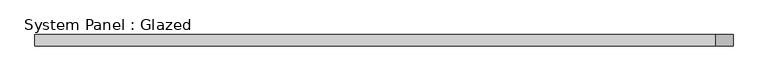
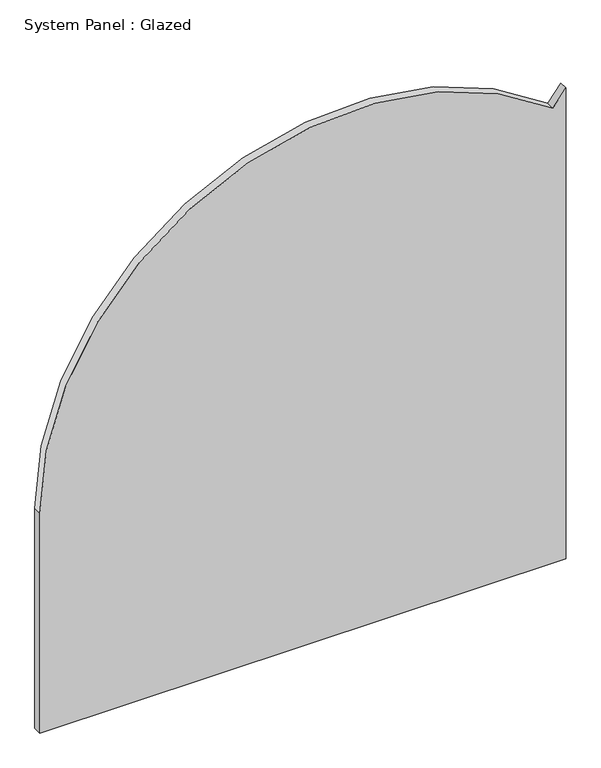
"""IFC4 building model written with IfcOpenShell, lengths in millimetres: plate geometry, System Panel : Glazed."""

import ifcopenshell
import ifcopenshell.guid

model = None  # the IFC model being written
_history = None  # IfcOwnerHistory: only IFC2X3 demands one
_inside = {}  # id of a spatial element -> (the spatial element, [elements in it])
_under = {}  # id of a project, library or spatial element -> (it, [spatial elements below it])
_declared = {}  # id of a project -> (the project, [libraries it declares])
_typed = {}  # id of a type object -> (the type object, [elements of that type])
_made_of = {}  # id of a material, layer set ... -> (it, [elements and type objects made of it])


def new_model(schema):
    """Start an empty IFC model of exactly this schema.

    Asked for "IFC4X3", IfcOpenShell would pick the latest addendum, in which some entities
    have other attributes; the version numbers below select the first issue.
    IFC2X3 requires an IfcOwnerHistory on every rooted entity: one is made here for all.
    """
    global model, _history
    if schema == "IFC4X3":
        model = ifcopenshell.file(schema_version=(4, 3, 0, 0))
    else:
        model = ifcopenshell.file(schema=schema)
    _inside.clear()
    _under.clear()
    _declared.clear()
    _typed.clear()
    _made_of.clear()
    _history = None
    if model.schema == "IFC2X3":
        org = make("IfcOrganization", Name="unknown")
        user = make(
            "IfcPersonAndOrganization",
            ThePerson=make("IfcPerson", FamilyName="unknown"),
            TheOrganization=org,
        )
        app = make(
            "IfcApplication",
            ApplicationDeveloper=org,
            Version="unknown",
            ApplicationFullName="unknown",
            ApplicationIdentifier="unknown",
        )
        _history = make(
            "IfcOwnerHistory",
            OwningUser=user,
            OwningApplication=app,
            ChangeAction="ADDED",
            CreationDate=0,
        )
    return model


def make(cls, **values):
    """One entity of the class cls with the attributes given. An attribute that is None is left unset."""
    return model.create_entity(
        cls, **{name: value for name, value in values.items() if value is not None}
    )


def rooted(cls, **values):
    """An entity with a GlobalId (a new one), such as an element, a storey or a relation."""
    return make(cls, GlobalId=ifcopenshell.guid.new(), OwnerHistory=_history, **values)


def si_unit(unit_type, name, prefix=None):
    """IfcSIUnit, for example si_unit("LENGTHUNIT", "METRE", prefix="MILLI")."""
    return make("IfcSIUnit", UnitType=unit_type, Prefix=prefix, Name=name)


def assignment(units):
    """IfcUnitAssignment: the units of a project."""
    return None if units is None else make("IfcUnitAssignment", Units=units)


def point(xyz):
    """IfcCartesianPoint."""
    return None if xyz is None else make("IfcCartesianPoint", Coordinates=xyz)


def direction(xyz):
    """IfcDirection."""
    return None if xyz is None else make("IfcDirection", DirectionRatios=xyz)


def frame(location, z_axis=None, x_axis=None):
    """IfcAxis2Placement3D, a coordinate frame: its origin and axes. An axis left out is left unset."""
    return make(
        "IfcAxis2Placement3D",
        Location=point(location),
        Axis=direction(z_axis),
        RefDirection=direction(x_axis),
    )


def frame_2d(location, x_axis=None):
    """IfcAxis2Placement2D, a coordinate frame in the plane: its origin and x axis."""
    return make(
        "IfcAxis2Placement2D", Location=point(location), RefDirection=direction(x_axis)
    )


def origin():
    """The frame at (0, 0, 0) with its axes left unset."""
    return frame((0.0, 0.0, 0.0))


def place(relative_to, where):
    """IfcLocalPlacement: puts the frame where relative to a parent placement (None: the world)."""
    return make(
        "IfcLocalPlacement", PlacementRelTo=relative_to, RelativePlacement=where
    )


def context(
    kind, dimensions, precision=None, world=None, true_north=None, identifier=None
):
    """IfcGeometricRepresentationContext, for example the 3D "Model" context."""
    return make(
        "IfcGeometricRepresentationContext",
        ContextIdentifier=identifier,
        ContextType=kind,
        CoordinateSpaceDimension=dimensions,
        Precision=precision,
        WorldCoordinateSystem=world,
        TrueNorth=true_north,
    )


def project(units=None, contexts=None):
    """IfcProject with its units and contexts."""
    return rooted(
        "IfcProject",
        Name="project",
        RepresentationContexts=contexts,
        UnitsInContext=assignment(units),
    )


def spatial(cls, under=None, at=None, **own):
    """A site, building, storey or space (cls), placed at a placement, below another one or the project."""
    s = rooted(cls, ObjectPlacement=at, **own)
    if under is not None:
        _under.setdefault(under.id(), (under, []))[1].append(s)
    return s


def polyline(points):
    """IfcPolyline through the points."""
    return make("IfcPolyline", Points=[point(p) for p in points])


def circle_curve(where, radius):
    """IfcCircle in the frame where."""
    return make("IfcCircle", Position=where, Radius=radius)


def trimmed(basis, trim1, trim2, sense, master):
    """IfcTrimmedCurve: the piece of a basis curve between two trims."""
    return make(
        "IfcTrimmedCurve",
        BasisCurve=basis,
        Trim1=trim1,
        Trim2=trim2,
        SenseAgreement=sense,
        MasterRepresentation=master,
    )


def segment(curve, same_sense, transition):
    """IfcCompositeCurveSegment."""
    return make(
        "IfcCompositeCurveSegment",
        Transition=transition,
        SameSense=same_sense,
        ParentCurve=curve,
    )


def composite_curve(segments, self_intersect=None):
    """IfcCompositeCurve: segments joined end to end."""
    return make("IfcCompositeCurve", Segments=segments, SelfIntersect=self_intersect)


def outline(outer, holes=None, kind="AREA"):
    """IfcArbitraryClosedProfileDef: a profile drawn as a closed curve; with holes, ...WithVoids."""
    if holes is None:
        return make("IfcArbitraryClosedProfileDef", ProfileType=kind, OuterCurve=outer)
    return make(
        "IfcArbitraryProfileDefWithVoids",
        ProfileType=kind,
        OuterCurve=outer,
        InnerCurves=holes,
    )


def extrude(swept, where, along, depth):
    """IfcExtrudedAreaSolid: the profile swept, set in the frame where, extruded along a direction by depth."""
    return make(
        "IfcExtrudedAreaSolid",
        SweptArea=swept,
        Position=where,
        ExtrudedDirection=direction(along),
        Depth=depth,
    )


def shape(context_of_items, identifier, shape_type, items):
    """IfcShapeRepresentation: the items that make up one representation, for example the "Body"."""
    return make(
        "IfcShapeRepresentation",
        ContextOfItems=context_of_items,
        RepresentationIdentifier=identifier,
        RepresentationType=shape_type,
        Items=items,
    )


def source(mapping_origin, context_of_items, identifier, shape_type, items):
    """IfcRepresentationMap: a shape defined once, which mapped items show again and again."""
    return make(
        "IfcRepresentationMap",
        MappingOrigin=mapping_origin,
        MappedRepresentation=shape(context_of_items, identifier, shape_type, items),
    )


def transform(
    local_origin,
    x_axis=None,
    y_axis=None,
    z_axis=None,
    scale=None,
    scale2=None,
    scale3=None,
    uniform=True,
):
    """IfcCartesianTransformationOperator3D, or its non-uniform kind. x_axis, y_axis, z_axis: its Axis1, 2, 3."""
    if uniform:
        return make(
            "IfcCartesianTransformationOperator3D",
            Axis1=direction(x_axis),
            Axis2=direction(y_axis),
            LocalOrigin=point(local_origin),
            Scale=scale,
            Axis3=direction(z_axis),
        )
    return make(
        "IfcCartesianTransformationOperator3DnonUniform",
        Axis1=direction(x_axis),
        Axis2=direction(y_axis),
        LocalOrigin=point(local_origin),
        Scale=scale,
        Axis3=direction(z_axis),
        Scale2=scale2,
        Scale3=scale3,
    )


def mapped(mapping_source, mapping_target):
    """IfcMappedItem: shows the shape of a source again, moved by a transform."""
    return make(
        "IfcMappedItem", MappingSource=mapping_source, MappingTarget=mapping_target
    )


def made_of(thing, what):
    """Note that an element or type object is made of a material, layer set ...; save() writes the relation."""
    if what is not None:
        _made_of.setdefault(what.id(), (what, []))[1].append(thing)
    return thing


def element(
    cls,
    number,
    at=None,
    inside=None,
    cuts=None,
    type_object=None,
    material=None,
    context=None,
    identifier="Body",
    shape_type=None,
    held_by="IfcProductDefinitionShape",
    body=None,
    shapes=None,
    **own,
):
    """One element of the class cls, such as IfcWall. Its Tag is "e" and its number.

    at: its placement. inside: the storey or other place that contains it. cuts: it is an
    opening in that element (IfcRelVoidsElement). A single representation is given by context,
    identifier, shape_type and body (its items); several are given by shapes. held_by: the class
    of the entity that holds the representations. save() writes the other relations.
    """
    e = rooted(cls, Tag="e%d" % number, ObjectPlacement=at, **own)
    if body is not None:
        shapes = [shape(context, identifier, shape_type, body)]
    if shapes is not None:
        e.Representation = make(held_by, Representations=shapes)
    if inside is not None:
        _inside.setdefault(inside.id(), (inside, []))[1].append(e)
    if cuts is not None:
        rooted(
            "IfcRelVoidsElement", RelatingBuildingElement=cuts, RelatedOpeningElement=e
        )
    if type_object is not None:
        _typed.setdefault(type_object.id(), (type_object, []))[1].append(e)
    return made_of(e, material)


def aggregate(whole, parts):
    """IfcRelAggregates: a whole, such as a stair, and the parts it consists of."""
    return rooted("IfcRelAggregates", RelatingObject=whole, RelatedObjects=parts)


def save(model, path):
    """Write the relations noted so far, then the file.

    IfcRelAggregates (storeys below a building ...), IfcRelContainedInSpatialStructure (elements
    in a storey), IfcRelDefinesByType, IfcRelAssociatesMaterial and IfcRelDeclares: one each for
    every whole, place, type object, material and project.
    """
    for whole, parts in _under.values():
        aggregate(whole, parts)
    for where, things in _inside.values():
        rooted(
            "IfcRelContainedInSpatialStructure",
            RelatedElements=things,
            RelatingStructure=where,
        )
    for kind, things in _typed.values():
        rooted("IfcRelDefinesByType", RelatedObjects=things, RelatingType=kind)
    for what, things in _made_of.values():
        rooted("IfcRelAssociatesMaterial", RelatedObjects=things, RelatingMaterial=what)
    for by, libraries in _declared.values():
        rooted("IfcRelDeclares", RelatingContext=by, RelatedDefinitions=libraries)
    model.write(path)


def system_panel_glazed_592029a4(model_context):
    return source(origin(), model_context, "Body", "SweptSolid", [
        extrude(outline(composite_curve([segment(polyline([(0.0, -778.2499999), (0.0, 778.2499999), (1471.128789, 778.2499999), (1421.3065741, 738.8799999)]), True, "CONTINUOUS"), segment(trimmed(circle_curve(frame_2d((686.5269791, 158.2500001)), 936.5), [point((1421.3065741, 738.8799999))], [point((686.5269791, -778.2499999))], False, "CARTESIAN"), True, "CONTINUOUS"), segment(polyline([(686.5269791, -778.2499999), (0.0, -778.2499999)]), True, "CONTINUOUS")], self_intersect=False)), frame((0.0, 19.05, 0.0), z_axis=(0.0, 1.0, 0.0), x_axis=(0.0, 0.0, 1.0)), (0.0, 0.0, 1.0), 25.4),
    ])


if __name__ == "__main__":
    model = new_model("IFC4")
    model_context = context("Model", 3, world=origin())
    ifc_project = project(units=[si_unit("LENGTHUNIT", "METRE", prefix="MILLI")], contexts=[model_context])
    site = spatial("IfcSite", under=ifc_project)
    building = spatial("IfcBuilding", under=site)
    placement = place(None, origin())
    system_panel_glazed_shape = system_panel_glazed_592029a4(model_context)
    element("IfcPlate", 1, ObjectType="System Panel : Glazed", at=placement, inside=building, context=model_context, shape_type="MappedRepresentation", body=[
        mapped(system_panel_glazed_shape, transform((0.0, 0.0, 0.0), x_axis=(1.0, 0.0, 0.0), y_axis=(0.0, 1.0, 0.0), z_axis=(0.0, 0.0, 1.0))),
    ])
    save(model, "model.ifc")
